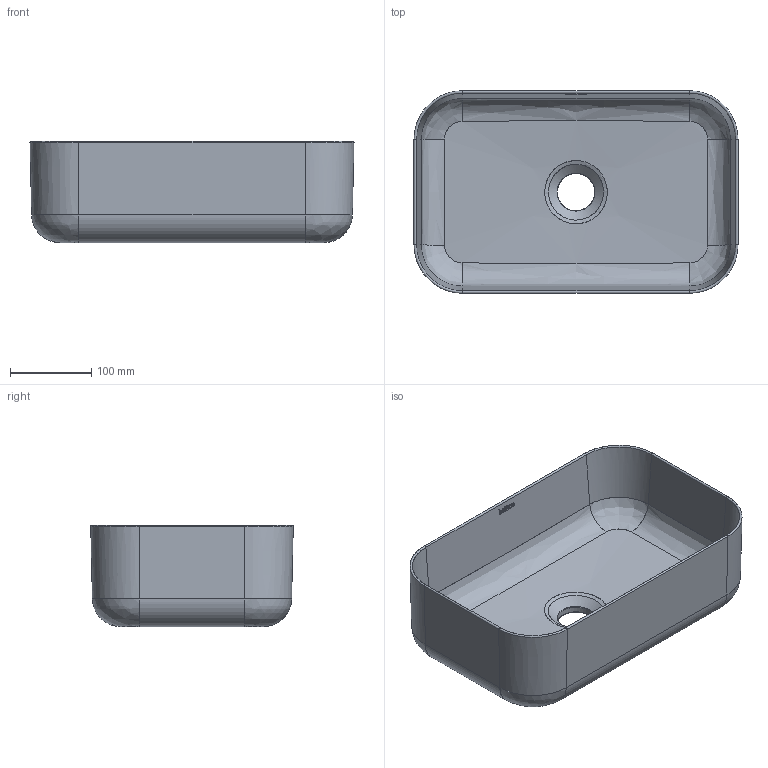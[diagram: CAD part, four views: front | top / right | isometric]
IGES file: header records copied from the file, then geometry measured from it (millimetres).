
Global section: file name: C:\Users\hp\Desktop\4925_4927_4928_Cube 40\4925_4927_4928_CUBE 40.igs; native system: Rhinoceros ( Mar  7 2025 ); preprocessor: Trout Lake IGES 012 Mar  7 2025; date: 250401.100802; units: millimetre
Bounding box: 400 x 250 x 125 mm (x, y, z)
Surface area: 414069.6 mm2 (no closed solid volume)
Topology: 0 solids, 0 shells, 112 faces, 754 edges, 745 vertices
Faces by surface type: bspline 112
